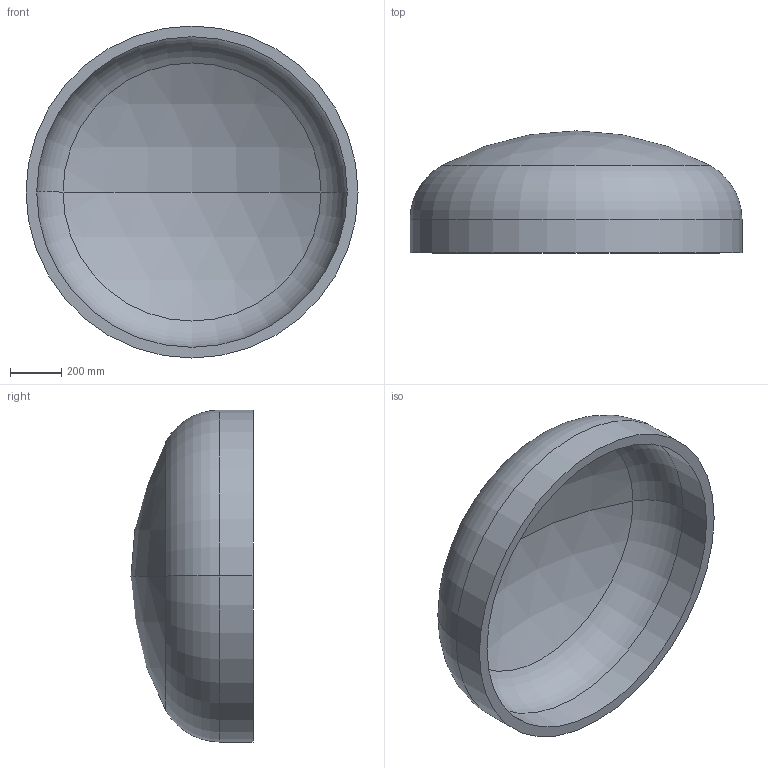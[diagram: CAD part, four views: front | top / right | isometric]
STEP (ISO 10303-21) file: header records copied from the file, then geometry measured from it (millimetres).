
FILE_DESCRIPTION (( 'STEP AP203' ), '1' );
FILE_NAME ('DIN 28013 Korbbogenform_-_Boden DIN 28013 - 1300 x 130 - I - s=42.step', '2016-07-01T09:51:39', ( '' ), ( '' ), 'SwSTEP 2.0', 'SolidWorks 2013', '' );
FILE_SCHEMA (( 'CONFIG_CONTROL_DESIGN' ));
Length unit declared in the file: millimetre
Products named in the file (1): DIN 28013 Korbbogenform_-_Boden DIN 28013 - 1300 x 130 - I - s=42
Bounding box: 1300 x 477.74 x 1300 mm (x, y, z)
Volume: 95588193.7 mm3; surface area: 4721501.2 mm2
Topology: 1 solids, 1 shells, 13 faces, 24 edges, 14 vertices
Faces by surface type: torus 4, cylinder 4, sphere 4, plane 1
Entity records: 407 total; most frequent: DIRECTION 72, CARTESIAN_POINT 52, ORIENTED_EDGE 48, AXIS2_PLACEMENT_3D 34, EDGE_CURVE 24, CIRCLE 20, VERTEX_POINT 14, EDGE_LOOP 14
